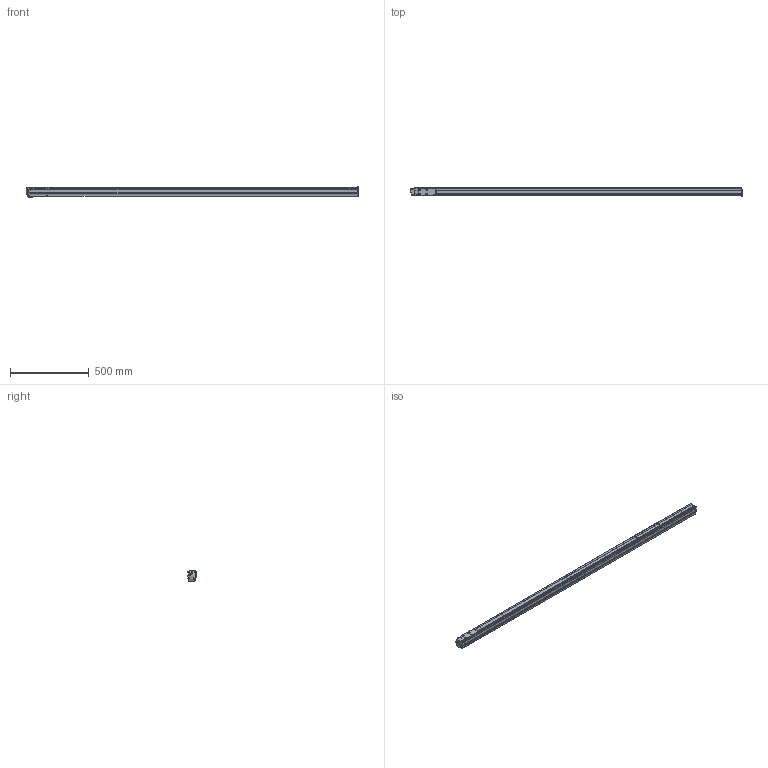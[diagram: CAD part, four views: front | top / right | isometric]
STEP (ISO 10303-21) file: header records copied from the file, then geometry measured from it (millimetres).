
FILE_DESCRIPTION(('Creo Elements/Direct Modeling STEP Export'),'2;1');
FILE_NAME('MOD-18E-T-M-Li.stp','2021-12-17T15:18:12',(''),(''),'Creo Elements/Direct Modeling STEP processor for AP214 (Solid Model)','Creo Elements/Direct Modeling 19.0G 27-Nov-2017 (C) Parametric Technology GmbH','');
FILE_SCHEMA(('AUTOMOTIVE_DESIGN { 1 0 10303 214 1 1 1 1 }'));
Length unit declared in the file: millimetre
Products named in the file (2): MOD-18E-M-Li
Assembly tree (1 placements, depth 2):
  MOD-18E-M-Li
    MOD-18E-M-Li
Bounding box: 2101.31 x 51.5 x 65.37 mm (x, y, z)
Volume: 5341154.8 mm3; surface area: 604433.7 mm2
Topology: 1 solids, 1 shells, 776 faces, 2269 edges, 1501 vertices
Faces by surface type: plane 361, cylinder 328, bspline 51, cone 16, torus 14, sphere 6
Entity records: 33578 total; most frequent: CARTESIAN_POINT 11382, ORIENTED_EDGE 4540, DIRECTION 3691, EDGE_CURVE 2268, VERTEX_POINT 1501, AXIS2_PLACEMENT_3D 1258, VECTOR 1175, LINE 1175
